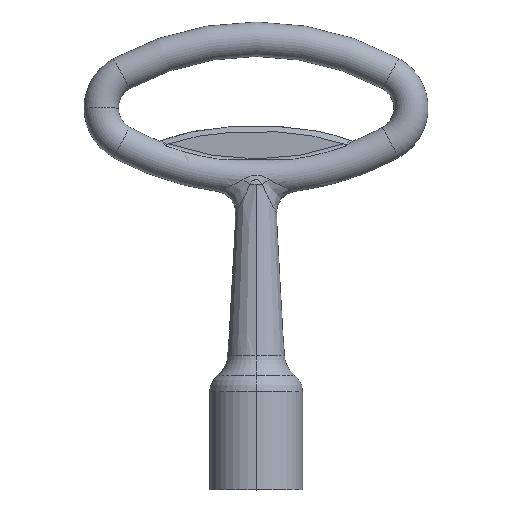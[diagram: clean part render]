
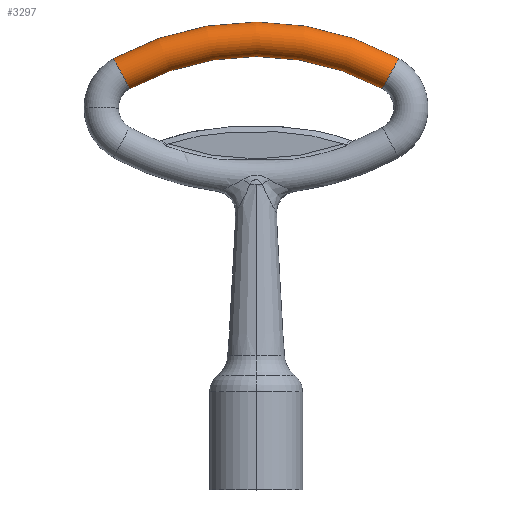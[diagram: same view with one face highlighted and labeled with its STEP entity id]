
A CAD part, top view. The second image highlights one B-rep face of the part: STEP entity #3297.
In plain terms, the highlighted toroidal (fillet/blend) face has major radius 40.672 mm and minor radius 2.5 mm.
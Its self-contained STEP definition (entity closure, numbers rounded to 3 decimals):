
#26 = AXIS2_PLACEMENT_3D ( 'NONE', #2037, #1953, #1951 ) ;
#52 = CARTESIAN_POINT ( 'NONE',  ( 0., 24.826, 0. ) ) ;
#264 = DIRECTION ( 'NONE',  ( 0., 0., -1. ) ) ;
#265 = DIRECTION ( 'NONE',  ( 0.877, -0.48, 0. ) ) ;
#270 = CARTESIAN_POINT ( 'NONE',  ( 19.538, 60.498, 0. ) ) ;
#275 = TOROIDAL_SURFACE ( 'NONE', #2058, 40.672, 2.5 ) ;
#282 = FACE_OUTER_BOUND ( 'NONE', #512, .T. ) ;
#512 = EDGE_LOOP ( 'NONE', ( #1055, #2729, #1094, #2089 ) ) ;
#744 = AXIS2_PLACEMENT_3D ( 'NONE', #3070, #3072, #3076 ) ;
#846 = VERTEX_POINT ( 'NONE', #2749 ) ;
#920 = CIRCLE ( 'NONE', #3043, 43.172 ) ;
#950 = EDGE_CURVE ( 'NONE', #1315, #2901, #1541, .T. ) ;
#1055 = ORIENTED_EDGE ( 'NONE', *, *, #2456, .F. ) ;
#1094 = ORIENTED_EDGE ( 'NONE', *, *, #950, .T. ) ;
#1281 = DIRECTION ( 'NONE',  ( 0., 0., 1. ) ) ;
#1315 = VERTEX_POINT ( 'NONE', #3591 ) ;
#1440 = EDGE_CURVE ( 'NONE', #846, #1315, #920, .T. ) ;
#1496 = CIRCLE ( 'NONE', #26, 38.172 ) ;
#1541 = CIRCLE ( 'NONE', #744, 2.5 ) ;
#1604 = EDGE_CURVE ( 'NONE', #2551, #2901, #1496, .T. ) ;
#1907 = CARTESIAN_POINT ( 'NONE',  ( -18.337, 58.305, 0. ) ) ;
#1951 = DIRECTION ( 'NONE',  ( 1., 0., 0. ) ) ;
#1953 = DIRECTION ( 'NONE',  ( 0., 0., 1. ) ) ;
#2037 = CARTESIAN_POINT ( 'NONE',  ( 0., 24.826, 0. ) ) ;
#2058 = AXIS2_PLACEMENT_3D ( 'NONE', #52, #3746, #3475 ) ;
#2089 = ORIENTED_EDGE ( 'NONE', *, *, #1604, .F. ) ;
#2456 = EDGE_CURVE ( 'NONE', #846, #2551, #2465, .T. ) ;
#2465 = CIRCLE ( 'NONE', #3214, 2.5 ) ;
#2551 = VERTEX_POINT ( 'NONE', #2822 ) ;
#2729 = ORIENTED_EDGE ( 'NONE', *, *, #1440, .T. ) ;
#2749 = CARTESIAN_POINT ( 'NONE',  ( 20.739, 62.691, 0. ) ) ;
#2822 = CARTESIAN_POINT ( 'NONE',  ( 18.337, 58.305, 0. ) ) ;
#2901 = VERTEX_POINT ( 'NONE', #1907 ) ;
#3043 = AXIS2_PLACEMENT_3D ( 'NONE', #3557, #1281, #3596 ) ;
#3070 = CARTESIAN_POINT ( 'NONE',  ( -19.538, 60.498, 0. ) ) ;
#3072 = DIRECTION ( 'NONE',  ( 0.877, 0.48, 0. ) ) ;
#3076 = DIRECTION ( 'NONE',  ( 0., 0., -1. ) ) ;
#3214 = AXIS2_PLACEMENT_3D ( 'NONE', #270, #265, #264 ) ;
#3297 = ADVANCED_FACE ( 'NONE', ( #282 ), #275, .T. ) ;
#3475 = DIRECTION ( 'NONE',  ( 1., 0., 0. ) ) ;
#3557 = CARTESIAN_POINT ( 'NONE',  ( 0., 24.826, 0. ) ) ;
#3591 = CARTESIAN_POINT ( 'NONE',  ( -20.739, 62.691, 0. ) ) ;
#3596 = DIRECTION ( 'NONE',  ( 1., 0., 0. ) ) ;
#3746 = DIRECTION ( 'NONE',  ( 0., 0., 1. ) ) ;
